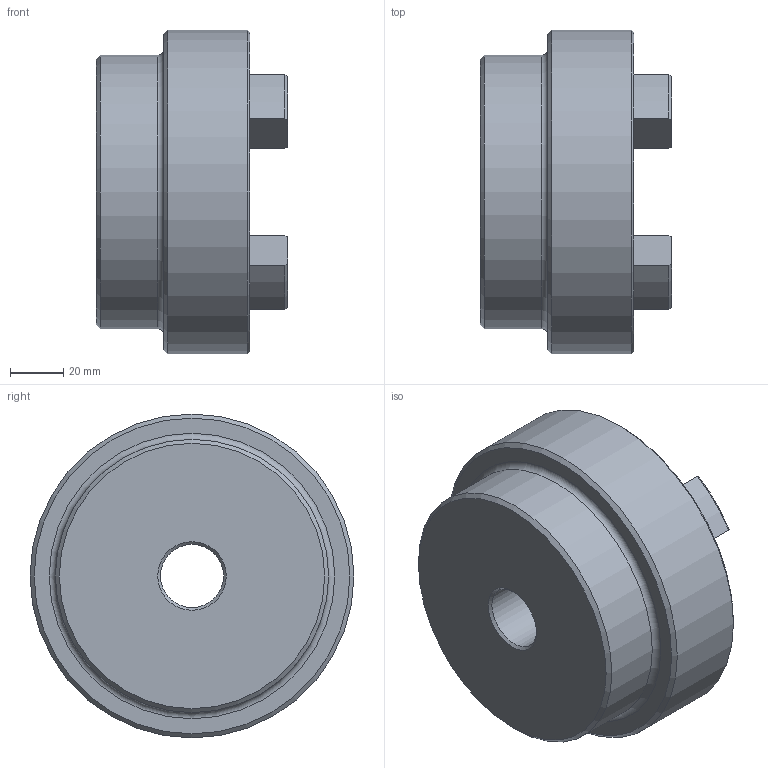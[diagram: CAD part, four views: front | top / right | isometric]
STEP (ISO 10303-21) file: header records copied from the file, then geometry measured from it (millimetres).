
FILE_DESCRIPTION (( 'STEP AP203' ), '1' );
FILE_NAME ('RC5.step', '2024-07-25T13:21:23', ( 'Adlan' ), ( '' ), 'SwSTEP 2.0', 'SolidWorks 2013', '' );
FILE_SCHEMA (( 'CONFIG_CONTROL_DESIGN' ));
Length unit declared in the file: inch
Products named in the file (1): RC5
Bounding box: 72.14 x 122.17 x 122.17 mm (x, y, z)
Volume: 461210.9 mm3; surface area: 57933.1 mm2
Topology: 1 solids, 1 shells, 76 faces, 189 edges, 117 vertices
Faces by surface type: cylinder 31, torus 17, plane 16, cone 12
Full cylindrical faces by diameter (mm): 23.82 x1, 103.124 x1, 122.174 x1
Entity records: 2349 total; most frequent: CARTESIAN_POINT 443, DIRECTION 416, ORIENTED_EDGE 358, EDGE_CURVE 179, AXIS2_PLACEMENT_3D 168, VERTEX_POINT 115, CIRCLE 91, EDGE_LOOP 88
